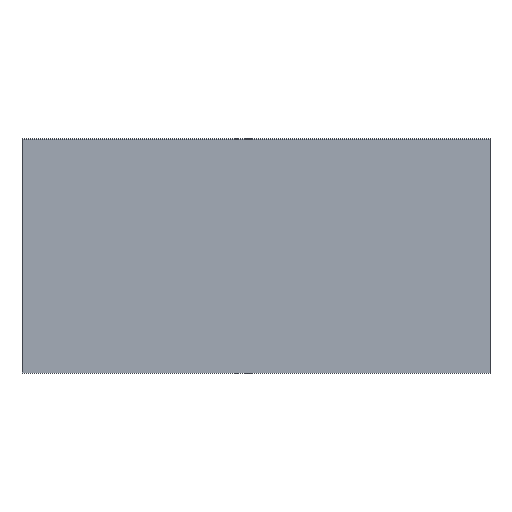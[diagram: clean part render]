
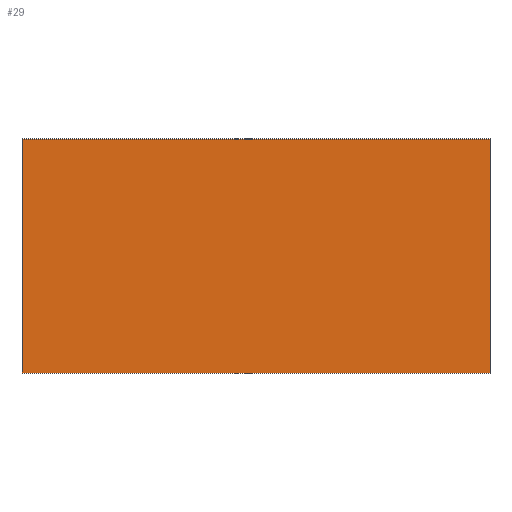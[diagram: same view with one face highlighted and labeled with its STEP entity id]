
A CAD part, front view. The second image highlights one B-rep face of the part: STEP entity #29.
In plain terms, the highlighted planar face has unit normal (0, -1, 0).
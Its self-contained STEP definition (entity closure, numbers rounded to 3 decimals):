
#29=ADVANCED_FACE('',(#35),#187,.T.);
#35=FACE_OUTER_BOUND('',#41,.T.);
#41=EDGE_LOOP('',(#62,#63,#64,#65));
#62=ORIENTED_EDGE('',*,*,#133,.F.);
#63=ORIENTED_EDGE('',*,*,#130,.F.);
#64=ORIENTED_EDGE('',*,*,#126,.F.);
#65=ORIENTED_EDGE('',*,*,#136,.F.);
#66=PCURVE('',#182,#90);
#70=PCURVE('',#183,#94);
#74=PCURVE('',#184,#98);
#78=PCURVE('',#185,#102);
#86=PCURVE('',#187,#110);
#87=PCURVE('',#187,#111);
#88=PCURVE('',#187,#112);
#89=PCURVE('',#187,#113);
#90=DEFINITIONAL_REPRESENTATION('',(#139),#321);
#94=DEFINITIONAL_REPRESENTATION('',(#147),#321);
#98=DEFINITIONAL_REPRESENTATION('',(#154),#321);
#102=DEFINITIONAL_REPRESENTATION('',(#161),#321);
#110=DEFINITIONAL_REPRESENTATION('',(#170),#321);
#111=DEFINITIONAL_REPRESENTATION('',(#171),#321);
#112=DEFINITIONAL_REPRESENTATION('',(#172),#321);
#113=DEFINITIONAL_REPRESENTATION('',(#173),#321);
#114=SURFACE_CURVE('',#138,(#66,#88),.PCURVE_S1.);
#118=SURFACE_CURVE('',#146,(#70,#87),.PCURVE_S1.);
#121=SURFACE_CURVE('',#153,(#74,#86),.PCURVE_S1.);
#124=SURFACE_CURVE('',#160,(#78,#89),.PCURVE_S1.);
#126=EDGE_CURVE('',#178,#179,#114,.T.);
#130=EDGE_CURVE('',#179,#180,#118,.T.);
#133=EDGE_CURVE('',#180,#181,#121,.T.);
#136=EDGE_CURVE('',#181,#178,#124,.T.);
#138=B_SPLINE_CURVE_WITH_KNOTS('',1,(#240,#241),.UNSPECIFIED.,.F.,.F.,(2,
2),(-163.,-143.),.UNSPECIFIED.);
#139=B_SPLINE_CURVE_WITH_KNOTS('',1,(#242,#243),.UNSPECIFIED.,.F.,.F.,(2,
2),(-163.,-143.),.UNSPECIFIED.);
#146=B_SPLINE_CURVE_WITH_KNOTS('',1,(#256,#257),.UNSPECIFIED.,.F.,.F.,(2,
2),(-143.,-103.),.UNSPECIFIED.);
#147=B_SPLINE_CURVE_WITH_KNOTS('',1,(#258,#259),.UNSPECIFIED.,.F.,.F.,(2,
2),(-143.,-103.),.UNSPECIFIED.);
#153=B_SPLINE_CURVE_WITH_KNOTS('',1,(#272,#273),.UNSPECIFIED.,.F.,.F.,(2,
2),(-103.,-83.),.UNSPECIFIED.);
#154=B_SPLINE_CURVE_WITH_KNOTS('',1,(#274,#275),.UNSPECIFIED.,.F.,.F.,(2,
2),(-103.,-83.),.UNSPECIFIED.);
#160=B_SPLINE_CURVE_WITH_KNOTS('',1,(#286,#287),.UNSPECIFIED.,.F.,.F.,(2,
2),(-20.,0.),.UNSPECIFIED.);
#161=B_SPLINE_CURVE_WITH_KNOTS('',1,(#288,#289),.UNSPECIFIED.,.F.,.F.,(2,
2),(-20.,0.),.UNSPECIFIED.);
#170=B_SPLINE_CURVE_WITH_KNOTS('',1,(#310,#311),.UNSPECIFIED.,.F.,.F.,(2,
2),(-103.,-83.),.UNSPECIFIED.);
#171=B_SPLINE_CURVE_WITH_KNOTS('',1,(#312,#313),.UNSPECIFIED.,.F.,.F.,(2,
2),(-143.,-103.),.UNSPECIFIED.);
#172=B_SPLINE_CURVE_WITH_KNOTS('',1,(#314,#315),.UNSPECIFIED.,.F.,.F.,(2,
2),(-163.,-143.),.UNSPECIFIED.);
#173=B_SPLINE_CURVE_WITH_KNOTS('',3,(#316,#317,#318,#319),.UNSPECIFIED.,
 .F.,.F.,(4,4),(-20.,0.),.UNSPECIFIED.);
#178=VERTEX_POINT('',#236);
#179=VERTEX_POINT('',#237);
#180=VERTEX_POINT('',#238);
#181=VERTEX_POINT('',#239);
#182=PLANE('',#208);
#183=PLANE('',#209);
#184=PLANE('',#210);
#185=PLANE('',#211);
#187=PLANE('',#213);
#208=AXIS2_PLACEMENT_3D('',#226,#217,$);
#209=AXIS2_PLACEMENT_3D('',#227,#218,$);
#210=AXIS2_PLACEMENT_3D('',#228,#219,$);
#211=AXIS2_PLACEMENT_3D('',#229,#220,$);
#213=AXIS2_PLACEMENT_3D('',#231,#222,$);
#217=DIRECTION('',(-1.,0.,0.));
#218=DIRECTION('',(0.,0.,1.));
#219=DIRECTION('',(1.,0.,0.));
#220=DIRECTION('',(0.,0.,-1.));
#222=DIRECTION('',(0.,-1.,0.));
#226=CARTESIAN_POINT('',(-775.,364.,23.));
#227=CARTESIAN_POINT('',(-775.,364.,43.));
#228=CARTESIAN_POINT('',(-735.,364.,43.));
#229=CARTESIAN_POINT('',(-735.,364.,23.));
#231=CARTESIAN_POINT('',(-735.,375.,-20.));
#236=CARTESIAN_POINT('',(-775.,375.,23.));
#237=CARTESIAN_POINT('',(-775.,375.,43.));
#238=CARTESIAN_POINT('',(-735.,375.,43.));
#239=CARTESIAN_POINT('',(-735.,375.,23.));
#240=CARTESIAN_POINT('',(-775.,375.,23.));
#241=CARTESIAN_POINT('',(-775.,375.,43.));
#242=CARTESIAN_POINT('',(-80.,8.8));
#243=CARTESIAN_POINT('',(-60.,8.8));
#256=CARTESIAN_POINT('',(-775.,375.,43.));
#257=CARTESIAN_POINT('',(-735.,375.,43.));
#258=CARTESIAN_POINT('',(-60.,8.8));
#259=CARTESIAN_POINT('',(-40.,8.8));
#272=CARTESIAN_POINT('',(-735.,375.,43.));
#273=CARTESIAN_POINT('',(-735.,375.,23.));
#274=CARTESIAN_POINT('',(-40.,8.8));
#275=CARTESIAN_POINT('',(-20.,8.8));
#286=CARTESIAN_POINT('',(-735.,375.,23.));
#287=CARTESIAN_POINT('',(-775.,375.,23.));
#288=CARTESIAN_POINT('',(-20.,8.8));
#289=CARTESIAN_POINT('',(0.,8.8));
#310=CARTESIAN_POINT('',(63.,-40.));
#311=CARTESIAN_POINT('',(43.,-40.));
#312=CARTESIAN_POINT('',(63.,0.));
#313=CARTESIAN_POINT('',(63.,-40.));
#314=CARTESIAN_POINT('',(43.,0.));
#315=CARTESIAN_POINT('',(63.,0.));
#316=CARTESIAN_POINT('',(43.,-40.));
#317=CARTESIAN_POINT('',(43.,-26.667));
#318=CARTESIAN_POINT('',(43.,-13.333));
#319=CARTESIAN_POINT('',(43.,0.));
#321=(
GEOMETRIC_REPRESENTATION_CONTEXT(2)
PARAMETRIC_REPRESENTATION_CONTEXT()
REPRESENTATION_CONTEXT('pspace','')
);
